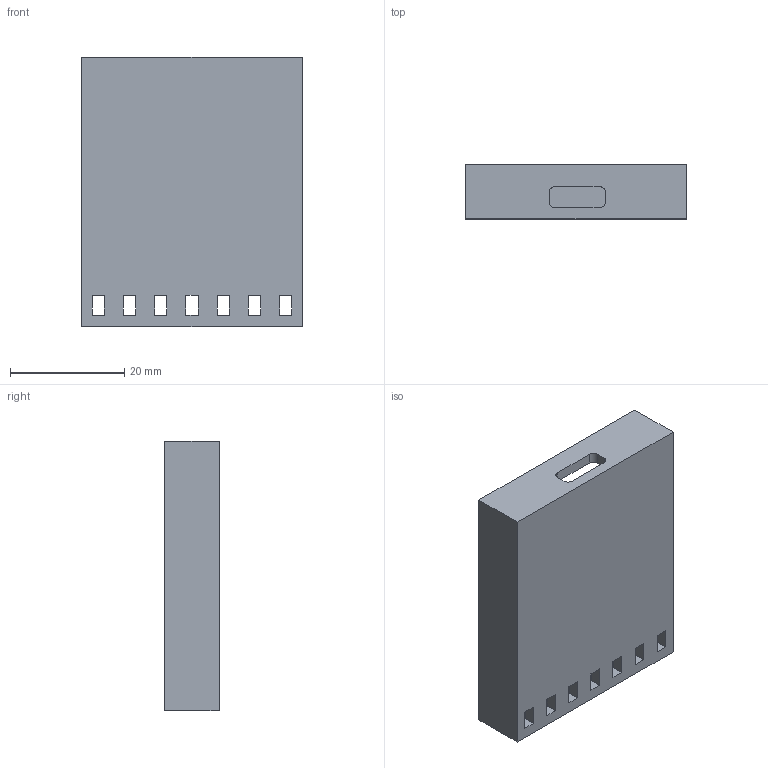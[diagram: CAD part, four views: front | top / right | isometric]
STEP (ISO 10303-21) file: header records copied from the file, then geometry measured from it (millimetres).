
FILE_DESCRIPTION(/* description */ ('FreeCAD Model'),/* implementation_level */ '2;1');
FILE_NAME(/* name */ 'D1 Mini v4 LD2410 v19.step',/* time_stamp */ '2024-08-30T13:12:22+10:00',/* author */ (''),/* organization */ (''),/* preprocessor_version */ 'ST-DEVELOPER v20',/* originating_system */ 'Autodesk Translation Framework v13.14.0.145',/* authorisation */ '');
FILE_SCHEMA (('AUTOMOTIVE_DESIGN { 1 0 10303 214 3 1 1 }'));
Length unit declared in the file: millimetre
Products named in the file (3): D1miniusbC_ld2410_case002; Enclosure; Case
Assembly tree (2 placements, depth 3):
  D1miniusbC_ld2410_case002
    Enclosure
      Case
Bounding box: 38.67 x 9.5 x 47.21 mm (x, y, z)
Volume: 6374.3 mm3; surface area: 7465.5 mm2
Topology: 1 solids, 1 shells, 300 faces, 662 edges, 368 vertices
Faces by surface type: plane 296, cylinder 4
Entity records: 7906 total; most frequent: CARTESIAN_POINT 1335, ORIENTED_EDGE 1324, DIRECTION 1280, EDGE_CURVE 662, LINE 654, VECTOR 654, VERTEX_POINT 368, EDGE_LOOP 320
